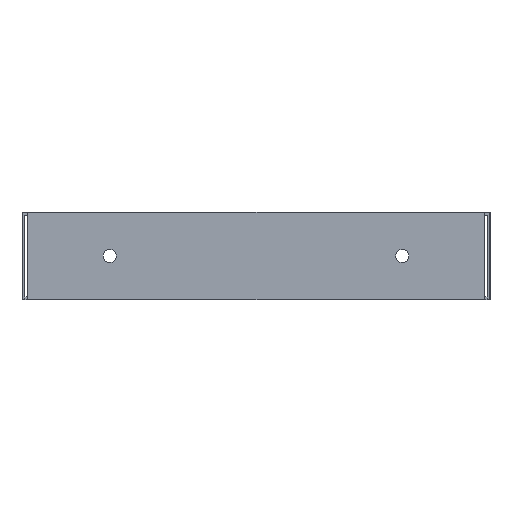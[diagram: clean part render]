
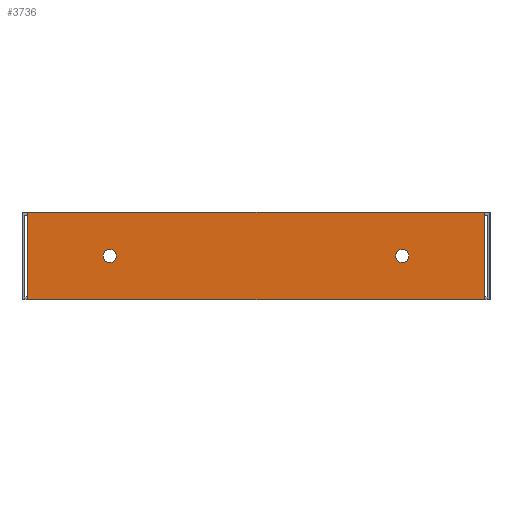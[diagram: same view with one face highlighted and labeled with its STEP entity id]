
A CAD part, left-side view. The second image highlights one B-rep face of the part: STEP entity #3736.
In plain terms, the highlighted planar face has unit normal (-1, 0, 0).
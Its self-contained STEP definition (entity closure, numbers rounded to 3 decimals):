
#100 = PLANE('',#101);
#101 = AXIS2_PLACEMENT_3D('',#102,#103,#104);
#102 = CARTESIAN_POINT('',(-119.,-79.,0.));
#103 = DIRECTION('',(0.,0.,1.));
#104 = DIRECTION('',(1.,0.,0.));
#126 = PLANE('',#127);
#127 = AXIS2_PLACEMENT_3D('',#128,#129,#130);
#128 = CARTESIAN_POINT('',(-120.,-78.,0.));
#129 = DIRECTION('',(0.,1.,0.));
#130 = DIRECTION('',(0.,0.,1.));
#1191 = VERTEX_POINT('',#1192);
#1192 = CARTESIAN_POINT('',(-120.,-78.,0.));
#1213 = EDGE_CURVE('',#1191,#1214,#1216,.T.);
#1214 = VERTEX_POINT('',#1215);
#1215 = CARTESIAN_POINT('',(-120.,-78.,30.));
#1216 = SURFACE_CURVE('',#1217,(#1221,#1228),.PCURVE_S1.);
#1217 = LINE('',#1218,#1219);
#1218 = CARTESIAN_POINT('',(-120.,-78.,0.));
#1219 = VECTOR('',#1220,1.);
#1220 = DIRECTION('',(0.,0.,1.));
#1221 = PCURVE('',#126,#1222);
#1222 = DEFINITIONAL_REPRESENTATION('',(#1223),#1227);
#1223 = LINE('',#1224,#1225);
#1224 = CARTESIAN_POINT('',(0.,0.));
#1225 = VECTOR('',#1226,1.);
#1226 = DIRECTION('',(1.,0.));
#1227 = ( GEOMETRIC_REPRESENTATION_CONTEXT(2) 
PARAMETRIC_REPRESENTATION_CONTEXT() REPRESENTATION_CONTEXT('2D SPACE',''
  ) );
#1228 = PCURVE('',#1229,#1234);
#1229 = PLANE('',#1230);
#1230 = AXIS2_PLACEMENT_3D('',#1231,#1232,#1233);
#1231 = CARTESIAN_POINT('',(-120.,-78.,0.));
#1232 = DIRECTION('',(1.,0.,0.));
#1233 = DIRECTION('',(0.,0.,1.));
#1234 = DEFINITIONAL_REPRESENTATION('',(#1235),#1239);
#1235 = LINE('',#1236,#1237);
#1236 = CARTESIAN_POINT('',(0.,0.));
#1237 = VECTOR('',#1238,1.);
#1238 = DIRECTION('',(1.,0.));
#1239 = ( GEOMETRIC_REPRESENTATION_CONTEXT(2) 
PARAMETRIC_REPRESENTATION_CONTEXT() REPRESENTATION_CONTEXT('2D SPACE',''
  ) );
#1257 = PLANE('',#1258);
#1258 = AXIS2_PLACEMENT_3D('',#1259,#1260,#1261);
#1259 = CARTESIAN_POINT('',(-120.,-78.,30.));
#1260 = DIRECTION('',(0.,0.,1.));
#1261 = DIRECTION('',(1.,0.,0.));
#1709 = VERTEX_POINT('',#1710);
#1710 = CARTESIAN_POINT('',(-120.,78.,0.));
#1724 = PLANE('',#1725);
#1725 = AXIS2_PLACEMENT_3D('',#1726,#1727,#1728);
#1726 = CARTESIAN_POINT('',(-120.,78.,0.));
#1727 = DIRECTION('',(0.,1.,0.));
#1728 = DIRECTION('',(0.,0.,1.));
#1736 = EDGE_CURVE('',#1191,#1709,#1737,.T.);
#1737 = SURFACE_CURVE('',#1738,(#1742,#1749),.PCURVE_S1.);
#1738 = LINE('',#1739,#1740);
#1739 = CARTESIAN_POINT('',(-120.,-78.,0.));
#1740 = VECTOR('',#1741,1.);
#1741 = DIRECTION('',(0.,1.,0.));
#1742 = PCURVE('',#100,#1743);
#1743 = DEFINITIONAL_REPRESENTATION('',(#1744),#1748);
#1744 = LINE('',#1745,#1746);
#1745 = CARTESIAN_POINT('',(-1.,1.));
#1746 = VECTOR('',#1747,1.);
#1747 = DIRECTION('',(0.,1.));
#1748 = ( GEOMETRIC_REPRESENTATION_CONTEXT(2) 
PARAMETRIC_REPRESENTATION_CONTEXT() REPRESENTATION_CONTEXT('2D SPACE',''
  ) );
#1749 = PCURVE('',#1229,#1750);
#1750 = DEFINITIONAL_REPRESENTATION('',(#1751),#1755);
#1751 = LINE('',#1752,#1753);
#1752 = CARTESIAN_POINT('',(0.,0.));
#1753 = VECTOR('',#1754,1.);
#1754 = DIRECTION('',(0.,-1.));
#1755 = ( GEOMETRIC_REPRESENTATION_CONTEXT(2) 
PARAMETRIC_REPRESENTATION_CONTEXT() REPRESENTATION_CONTEXT('2D SPACE',''
  ) );
#2481 = CYLINDRICAL_SURFACE('',#2482,2.25);
#2482 = AXIS2_PLACEMENT_3D('',#2483,#2484,#2485);
#2483 = CARTESIAN_POINT('',(-119.5,50.,15.));
#2484 = DIRECTION('',(1.,0.,0.));
#2485 = DIRECTION('',(0.,1.,0.));
#2516 = CYLINDRICAL_SURFACE('',#2517,2.25);
#2517 = AXIS2_PLACEMENT_3D('',#2518,#2519,#2520);
#2518 = CARTESIAN_POINT('',(-119.5,-50.,15.));
#2519 = DIRECTION('',(1.,0.,0.));
#2520 = DIRECTION('',(0.,1.,0.));
#3691 = EDGE_CURVE('',#1214,#3692,#3694,.T.);
#3692 = VERTEX_POINT('',#3693);
#3693 = CARTESIAN_POINT('',(-120.,78.,30.));
#3694 = SURFACE_CURVE('',#3695,(#3699,#3706),.PCURVE_S1.);
#3695 = LINE('',#3696,#3697);
#3696 = CARTESIAN_POINT('',(-120.,-78.,30.));
#3697 = VECTOR('',#3698,1.);
#3698 = DIRECTION('',(0.,1.,0.));
#3699 = PCURVE('',#1257,#3700);
#3700 = DEFINITIONAL_REPRESENTATION('',(#3701),#3705);
#3701 = LINE('',#3702,#3703);
#3702 = CARTESIAN_POINT('',(0.,0.));
#3703 = VECTOR('',#3704,1.);
#3704 = DIRECTION('',(0.,1.));
#3705 = ( GEOMETRIC_REPRESENTATION_CONTEXT(2) 
PARAMETRIC_REPRESENTATION_CONTEXT() REPRESENTATION_CONTEXT('2D SPACE',''
  ) );
#3706 = PCURVE('',#1229,#3707);
#3707 = DEFINITIONAL_REPRESENTATION('',(#3708),#3712);
#3708 = LINE('',#3709,#3710);
#3709 = CARTESIAN_POINT('',(30.,0.));
#3710 = VECTOR('',#3711,1.);
#3711 = DIRECTION('',(0.,-1.));
#3712 = ( GEOMETRIC_REPRESENTATION_CONTEXT(2) 
PARAMETRIC_REPRESENTATION_CONTEXT() REPRESENTATION_CONTEXT('2D SPACE',''
  ) );
#3736 = ADVANCED_FACE('',(#3737,#3763,#3789),#1229,.F.);
#3737 = FACE_BOUND('',#3738,.F.);
#3738 = EDGE_LOOP('',(#3739,#3740,#3741,#3762));
#3739 = ORIENTED_EDGE('',*,*,#1213,.F.);
#3740 = ORIENTED_EDGE('',*,*,#1736,.T.);
#3741 = ORIENTED_EDGE('',*,*,#3742,.T.);
#3742 = EDGE_CURVE('',#1709,#3692,#3743,.T.);
#3743 = SURFACE_CURVE('',#3744,(#3748,#3755),.PCURVE_S1.);
#3744 = LINE('',#3745,#3746);
#3745 = CARTESIAN_POINT('',(-120.,78.,0.));
#3746 = VECTOR('',#3747,1.);
#3747 = DIRECTION('',(0.,0.,1.));
#3748 = PCURVE('',#1229,#3749);
#3749 = DEFINITIONAL_REPRESENTATION('',(#3750),#3754);
#3750 = LINE('',#3751,#3752);
#3751 = CARTESIAN_POINT('',(0.,-156.));
#3752 = VECTOR('',#3753,1.);
#3753 = DIRECTION('',(1.,0.));
#3754 = ( GEOMETRIC_REPRESENTATION_CONTEXT(2) 
PARAMETRIC_REPRESENTATION_CONTEXT() REPRESENTATION_CONTEXT('2D SPACE',''
  ) );
#3755 = PCURVE('',#1724,#3756);
#3756 = DEFINITIONAL_REPRESENTATION('',(#3757),#3761);
#3757 = LINE('',#3758,#3759);
#3758 = CARTESIAN_POINT('',(0.,0.));
#3759 = VECTOR('',#3760,1.);
#3760 = DIRECTION('',(1.,0.));
#3761 = ( GEOMETRIC_REPRESENTATION_CONTEXT(2) 
PARAMETRIC_REPRESENTATION_CONTEXT() REPRESENTATION_CONTEXT('2D SPACE',''
  ) );
#3762 = ORIENTED_EDGE('',*,*,#3691,.F.);
#3763 = FACE_BOUND('',#3764,.F.);
#3764 = EDGE_LOOP('',(#3765));
#3765 = ORIENTED_EDGE('',*,*,#3766,.F.);
#3766 = EDGE_CURVE('',#3767,#3767,#3769,.T.);
#3767 = VERTEX_POINT('',#3768);
#3768 = CARTESIAN_POINT('',(-120.,52.25,15.));
#3769 = SURFACE_CURVE('',#3770,(#3775,#3782),.PCURVE_S1.);
#3770 = CIRCLE('',#3771,2.25);
#3771 = AXIS2_PLACEMENT_3D('',#3772,#3773,#3774);
#3772 = CARTESIAN_POINT('',(-120.,50.,15.));
#3773 = DIRECTION('',(1.,0.,0.));
#3774 = DIRECTION('',(-0.,1.,0.));
#3775 = PCURVE('',#1229,#3776);
#3776 = DEFINITIONAL_REPRESENTATION('',(#3777),#3781);
#3777 = CIRCLE('',#3778,2.25);
#3778 = AXIS2_PLACEMENT_2D('',#3779,#3780);
#3779 = CARTESIAN_POINT('',(15.,-128.));
#3780 = DIRECTION('',(0.,-1.));
#3781 = ( GEOMETRIC_REPRESENTATION_CONTEXT(2) 
PARAMETRIC_REPRESENTATION_CONTEXT() REPRESENTATION_CONTEXT('2D SPACE',''
  ) );
#3782 = PCURVE('',#2481,#3783);
#3783 = DEFINITIONAL_REPRESENTATION('',(#3784),#3788);
#3784 = LINE('',#3785,#3786);
#3785 = CARTESIAN_POINT('',(0.,-0.5));
#3786 = VECTOR('',#3787,1.);
#3787 = DIRECTION('',(1.,0.));
#3788 = ( GEOMETRIC_REPRESENTATION_CONTEXT(2) 
PARAMETRIC_REPRESENTATION_CONTEXT() REPRESENTATION_CONTEXT('2D SPACE',''
  ) );
#3789 = FACE_BOUND('',#3790,.F.);
#3790 = EDGE_LOOP('',(#3791));
#3791 = ORIENTED_EDGE('',*,*,#3792,.F.);
#3792 = EDGE_CURVE('',#3793,#3793,#3795,.T.);
#3793 = VERTEX_POINT('',#3794);
#3794 = CARTESIAN_POINT('',(-120.,-47.75,15.));
#3795 = SURFACE_CURVE('',#3796,(#3801,#3808),.PCURVE_S1.);
#3796 = CIRCLE('',#3797,2.25);
#3797 = AXIS2_PLACEMENT_3D('',#3798,#3799,#3800);
#3798 = CARTESIAN_POINT('',(-120.,-50.,15.));
#3799 = DIRECTION('',(1.,0.,0.));
#3800 = DIRECTION('',(-0.,1.,0.));
#3801 = PCURVE('',#1229,#3802);
#3802 = DEFINITIONAL_REPRESENTATION('',(#3803),#3807);
#3803 = CIRCLE('',#3804,2.25);
#3804 = AXIS2_PLACEMENT_2D('',#3805,#3806);
#3805 = CARTESIAN_POINT('',(15.,-28.));
#3806 = DIRECTION('',(0.,-1.));
#3807 = ( GEOMETRIC_REPRESENTATION_CONTEXT(2) 
PARAMETRIC_REPRESENTATION_CONTEXT() REPRESENTATION_CONTEXT('2D SPACE',''
  ) );
#3808 = PCURVE('',#2516,#3809);
#3809 = DEFINITIONAL_REPRESENTATION('',(#3810),#3814);
#3810 = LINE('',#3811,#3812);
#3811 = CARTESIAN_POINT('',(0.,-0.5));
#3812 = VECTOR('',#3813,1.);
#3813 = DIRECTION('',(1.,0.));
#3814 = ( GEOMETRIC_REPRESENTATION_CONTEXT(2) 
PARAMETRIC_REPRESENTATION_CONTEXT() REPRESENTATION_CONTEXT('2D SPACE',''
  ) );
